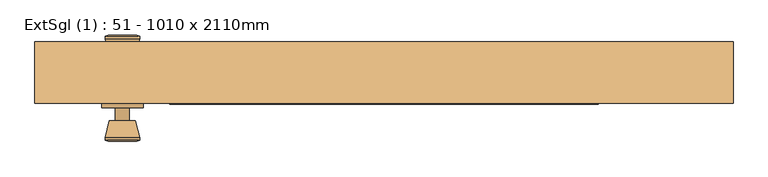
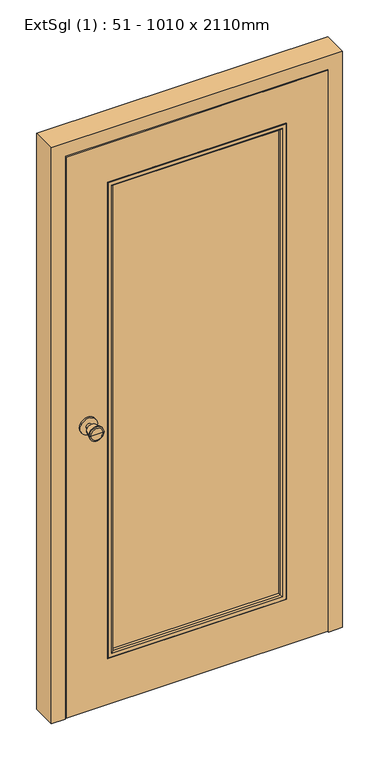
"""IFC4 building model written with IfcOpenShell, lengths in millimetres: door geometry, ExtSgl (1) : 51 - 1010 x 2110mm."""

import ifcopenshell
import ifcopenshell.guid

model = None  # the IFC model being written
_history = None  # IfcOwnerHistory: only IFC2X3 demands one
_inside = {}  # id of a spatial element -> (the spatial element, [elements in it])
_under = {}  # id of a project, library or spatial element -> (it, [spatial elements below it])
_declared = {}  # id of a project -> (the project, [libraries it declares])
_typed = {}  # id of a type object -> (the type object, [elements of that type])
_made_of = {}  # id of a material, layer set ... -> (it, [elements and type objects made of it])


def new_model(schema):
    """Start an empty IFC model of exactly this schema.

    Asked for "IFC4X3", IfcOpenShell would pick the latest addendum, in which some entities
    have other attributes; the version numbers below select the first issue.
    IFC2X3 requires an IfcOwnerHistory on every rooted entity: one is made here for all.
    """
    global model, _history
    if schema == "IFC4X3":
        model = ifcopenshell.file(schema_version=(4, 3, 0, 0))
    else:
        model = ifcopenshell.file(schema=schema)
    _inside.clear()
    _under.clear()
    _declared.clear()
    _typed.clear()
    _made_of.clear()
    _history = None
    if model.schema == "IFC2X3":
        org = make("IfcOrganization", Name="unknown")
        user = make(
            "IfcPersonAndOrganization",
            ThePerson=make("IfcPerson", FamilyName="unknown"),
            TheOrganization=org,
        )
        app = make(
            "IfcApplication",
            ApplicationDeveloper=org,
            Version="unknown",
            ApplicationFullName="unknown",
            ApplicationIdentifier="unknown",
        )
        _history = make(
            "IfcOwnerHistory",
            OwningUser=user,
            OwningApplication=app,
            ChangeAction="ADDED",
            CreationDate=0,
        )
    return model


def make(cls, **values):
    """One entity of the class cls with the attributes given. An attribute that is None is left unset."""
    return model.create_entity(
        cls, **{name: value for name, value in values.items() if value is not None}
    )


def rooted(cls, **values):
    """An entity with a GlobalId (a new one), such as an element, a storey or a relation."""
    return make(cls, GlobalId=ifcopenshell.guid.new(), OwnerHistory=_history, **values)


def si_unit(unit_type, name, prefix=None):
    """IfcSIUnit, for example si_unit("LENGTHUNIT", "METRE", prefix="MILLI")."""
    return make("IfcSIUnit", UnitType=unit_type, Prefix=prefix, Name=name)


def assignment(units):
    """IfcUnitAssignment: the units of a project."""
    return None if units is None else make("IfcUnitAssignment", Units=units)


def point(xyz):
    """IfcCartesianPoint."""
    return None if xyz is None else make("IfcCartesianPoint", Coordinates=xyz)


def direction(xyz):
    """IfcDirection."""
    return None if xyz is None else make("IfcDirection", DirectionRatios=xyz)


def frame(location, z_axis=None, x_axis=None):
    """IfcAxis2Placement3D, a coordinate frame: its origin and axes. An axis left out is left unset."""
    return make(
        "IfcAxis2Placement3D",
        Location=point(location),
        Axis=direction(z_axis),
        RefDirection=direction(x_axis),
    )


def frame_2d(location, x_axis=None):
    """IfcAxis2Placement2D, a coordinate frame in the plane: its origin and x axis."""
    return make(
        "IfcAxis2Placement2D", Location=point(location), RefDirection=direction(x_axis)
    )


def origin():
    """The frame at (0, 0, 0) with its axes left unset."""
    return frame((0.0, 0.0, 0.0))


def place(relative_to, where):
    """IfcLocalPlacement: puts the frame where relative to a parent placement (None: the world)."""
    return make(
        "IfcLocalPlacement", PlacementRelTo=relative_to, RelativePlacement=where
    )


def context(
    kind, dimensions, precision=None, world=None, true_north=None, identifier=None
):
    """IfcGeometricRepresentationContext, for example the 3D "Model" context."""
    return make(
        "IfcGeometricRepresentationContext",
        ContextIdentifier=identifier,
        ContextType=kind,
        CoordinateSpaceDimension=dimensions,
        Precision=precision,
        WorldCoordinateSystem=world,
        TrueNorth=true_north,
    )


def project(units=None, contexts=None):
    """IfcProject with its units and contexts."""
    return rooted(
        "IfcProject",
        Name="project",
        RepresentationContexts=contexts,
        UnitsInContext=assignment(units),
    )


def spatial(cls, under=None, at=None, **own):
    """A site, building, storey or space (cls), placed at a placement, below another one or the project."""
    s = rooted(cls, ObjectPlacement=at, **own)
    if under is not None:
        _under.setdefault(under.id(), (under, []))[1].append(s)
    return s


def polyline(points):
    """IfcPolyline through the points."""
    return make("IfcPolyline", Points=[point(p) for p in points])


def circle_curve(where, radius):
    """IfcCircle in the frame where."""
    return make("IfcCircle", Position=where, Radius=radius)


def ellipse_curve(where, semi_axis1, semi_axis2):
    """IfcEllipse in the frame where."""
    return make(
        "IfcEllipse", Position=where, SemiAxis1=semi_axis1, SemiAxis2=semi_axis2
    )


def trimmed(basis, trim1, trim2, sense, master):
    """IfcTrimmedCurve: the piece of a basis curve between two trims."""
    return make(
        "IfcTrimmedCurve",
        BasisCurve=basis,
        Trim1=trim1,
        Trim2=trim2,
        SenseAgreement=sense,
        MasterRepresentation=master,
    )


def segment(curve, same_sense, transition):
    """IfcCompositeCurveSegment."""
    return make(
        "IfcCompositeCurveSegment",
        Transition=transition,
        SameSense=same_sense,
        ParentCurve=curve,
    )


def composite_curve(segments, self_intersect=None):
    """IfcCompositeCurve: segments joined end to end."""
    return make("IfcCompositeCurve", Segments=segments, SelfIntersect=self_intersect)


def outline(outer, holes=None, kind="AREA"):
    """IfcArbitraryClosedProfileDef: a profile drawn as a closed curve; with holes, ...WithVoids."""
    if holes is None:
        return make("IfcArbitraryClosedProfileDef", ProfileType=kind, OuterCurve=outer)
    return make(
        "IfcArbitraryProfileDefWithVoids",
        ProfileType=kind,
        OuterCurve=outer,
        InnerCurves=holes,
    )


def extrude(swept, where, along, depth):
    """IfcExtrudedAreaSolid: the profile swept, set in the frame where, extruded along a direction by depth."""
    return make(
        "IfcExtrudedAreaSolid",
        SweptArea=swept,
        Position=where,
        ExtrudedDirection=direction(along),
        Depth=depth,
    )


def faces_of(points, faces, orient=None, outer=None):
    """IfcFace entities. A face is a list of loops; a loop is a list of indices into points, from 0.

    orient and outer hold one flag for each loop. By default every Orientation is true, the
    first loop of a face is its IfcFaceOuterBound and the others are IfcFaceBound.
    """
    made = []
    for i, loops in enumerate(faces):
        bounds = []
        for j, loop in enumerate(loops):
            is_outer = j == 0 if outer is None else outer[i][j]
            bounds.append(
                make(
                    "IfcFaceOuterBound" if is_outer else "IfcFaceBound",
                    Bound=make("IfcPolyLoop", Polygon=[points[k] for k in loop]),
                    Orientation=True if orient is None else orient[i][j],
                )
            )
        made.append(make("IfcFace", Bounds=bounds))
    return made


def faceted_brep(points, faces, orient=None, outer=None, voids=None):
    """IfcFacetedBrep: a solid bounded by flat faces; with voids (closed shells), ...WithVoids."""
    shared = [point(p) for p in points]
    hull = make("IfcClosedShell", CfsFaces=faces_of(shared, faces, orient, outer))
    if voids is None:
        return make("IfcFacetedBrep", Outer=hull)
    return make(
        "IfcFacetedBrepWithVoids",
        Outer=hull,
        Voids=[
            make(cls, CfsFaces=faces_of(shared, fs, o, b)) for cls, fs, o, b in voids
        ],
    )


def shape(context_of_items, identifier, shape_type, items):
    """IfcShapeRepresentation: the items that make up one representation, for example the "Body"."""
    return make(
        "IfcShapeRepresentation",
        ContextOfItems=context_of_items,
        RepresentationIdentifier=identifier,
        RepresentationType=shape_type,
        Items=items,
    )


def source(mapping_origin, context_of_items, identifier, shape_type, items):
    """IfcRepresentationMap: a shape defined once, which mapped items show again and again."""
    return make(
        "IfcRepresentationMap",
        MappingOrigin=mapping_origin,
        MappedRepresentation=shape(context_of_items, identifier, shape_type, items),
    )


def transform(
    local_origin,
    x_axis=None,
    y_axis=None,
    z_axis=None,
    scale=None,
    scale2=None,
    scale3=None,
    uniform=True,
):
    """IfcCartesianTransformationOperator3D, or its non-uniform kind. x_axis, y_axis, z_axis: its Axis1, 2, 3."""
    if uniform:
        return make(
            "IfcCartesianTransformationOperator3D",
            Axis1=direction(x_axis),
            Axis2=direction(y_axis),
            LocalOrigin=point(local_origin),
            Scale=scale,
            Axis3=direction(z_axis),
        )
    return make(
        "IfcCartesianTransformationOperator3DnonUniform",
        Axis1=direction(x_axis),
        Axis2=direction(y_axis),
        LocalOrigin=point(local_origin),
        Scale=scale,
        Axis3=direction(z_axis),
        Scale2=scale2,
        Scale3=scale3,
    )


def mapped(mapping_source, mapping_target):
    """IfcMappedItem: shows the shape of a source again, moved by a transform."""
    return make(
        "IfcMappedItem", MappingSource=mapping_source, MappingTarget=mapping_target
    )


def made_of(thing, what):
    """Note that an element or type object is made of a material, layer set ...; save() writes the relation."""
    if what is not None:
        _made_of.setdefault(what.id(), (what, []))[1].append(thing)
    return thing


def element(
    cls,
    number,
    at=None,
    inside=None,
    cuts=None,
    type_object=None,
    material=None,
    context=None,
    identifier="Body",
    shape_type=None,
    held_by="IfcProductDefinitionShape",
    body=None,
    shapes=None,
    **own,
):
    """One element of the class cls, such as IfcWall. Its Tag is "e" and its number.

    at: its placement. inside: the storey or other place that contains it. cuts: it is an
    opening in that element (IfcRelVoidsElement). A single representation is given by context,
    identifier, shape_type and body (its items); several are given by shapes. held_by: the class
    of the entity that holds the representations. save() writes the other relations.
    """
    e = rooted(cls, Tag="e%d" % number, ObjectPlacement=at, **own)
    if body is not None:
        shapes = [shape(context, identifier, shape_type, body)]
    if shapes is not None:
        e.Representation = make(held_by, Representations=shapes)
    if inside is not None:
        _inside.setdefault(inside.id(), (inside, []))[1].append(e)
    if cuts is not None:
        rooted(
            "IfcRelVoidsElement", RelatingBuildingElement=cuts, RelatedOpeningElement=e
        )
    if type_object is not None:
        _typed.setdefault(type_object.id(), (type_object, []))[1].append(e)
    return made_of(e, material)


def aggregate(whole, parts):
    """IfcRelAggregates: a whole, such as a stair, and the parts it consists of."""
    return rooted("IfcRelAggregates", RelatingObject=whole, RelatedObjects=parts)


def save(model, path):
    """Write the relations noted so far, then the file.

    IfcRelAggregates (storeys below a building ...), IfcRelContainedInSpatialStructure (elements
    in a storey), IfcRelDefinesByType, IfcRelAssociatesMaterial and IfcRelDeclares: one each for
    every whole, place, type object, material and project.
    """
    for whole, parts in _under.values():
        aggregate(whole, parts)
    for where, things in _inside.values():
        rooted(
            "IfcRelContainedInSpatialStructure",
            RelatedElements=things,
            RelatingStructure=where,
        )
    for kind, things in _typed.values():
        rooted("IfcRelDefinesByType", RelatedObjects=things, RelatingType=kind)
    for what, things in _made_of.values():
        rooted("IfcRelAssociatesMaterial", RelatedObjects=things, RelatingMaterial=what)
    for by, libraries in _declared.values():
        rooted("IfcRelDeclares", RelatingContext=by, RelatedDefinitions=libraries)
    model.write(path)


def plane_surface(at):
    """IfcPlane: the flat surface through the origin of the frame at, square to its z axis."""
    return make("IfcPlane", Position=at)


def cylinder_surface(at, radius):
    """IfcCylindricalSurface: all points at the distance radius from the z axis of the frame at."""
    return make("IfcCylindricalSurface", Position=at, Radius=radius)


def revolved_surface(curve, axis_point, axis_direction):
    """IfcSurfaceOfRevolution: the curve turned about the line through axis_point along axis_direction."""
    return make(
        "IfcSurfaceOfRevolution",
        SweptCurve=make("IfcArbitraryOpenProfileDef", ProfileType="CURVE", Curve=curve),
        AxisPosition=make("IfcAxis1Placement", Location=point(axis_point), Axis=direction(axis_direction)),
    )


def advanced_brep(points, edges, surfaces, faces):
    """IfcAdvancedBrep: a solid bounded by faces that lie on surfaces and meet in shared edges.

    An edge is (start, end): straight between two places in points (the first is 0);
    or (start, end, curve); or (start, end, curve, False) where it runs against its curve.
    A face is (place in surfaces, loops), or (place, loops, False) where it looks against
    its surface's normal. A loop lists edges by number (the first is 1), with a minus sign
    where the edge is run from its end to its start. The first loop is the outer one.
    """
    corners = [point(p) for p in points]
    vertices = [make("IfcVertexPoint", VertexGeometry=c) for c in corners]
    made = []
    for start, end, *more in edges:
        made.append(
            make(
                "IfcEdgeCurve",
                EdgeStart=vertices[start],
                EdgeEnd=vertices[end],
                EdgeGeometry=more[0] if more else make("IfcPolyline", Points=[corners[start], corners[end]]),
                SameSense=more[1] if len(more) > 1 else True,
            )
        )
    hull = []
    for where, loops, *sense in faces:
        bounds = []
        for j, loop in enumerate(loops):
            ring = [make("IfcOrientedEdge", EdgeElement=made[abs(k) - 1], Orientation=k > 0) for k in loop]
            bounds.append(
                make(
                    "IfcFaceOuterBound" if j == 0 else "IfcFaceBound",
                    Bound=make("IfcEdgeLoop", EdgeList=ring),
                    Orientation=True,
                )
            )
        hull.append(make("IfcAdvancedFace", Bounds=bounds, FaceSurface=surfaces[where], SameSense=sense[0] if sense else True))
    return make("IfcAdvancedBrep", Outer=make("IfcClosedShell", CfsFaces=hull))


def extsgl_1_51_1010_x_2110mm_960b48f2(model_context):
    return source(origin(), model_context, "Body", "SolidModel", [
        advanced_brep(
        [(-378.5, 25.0, 1050.0), (-368.5, 25.0, 1050.0), (-388.5, 25.0, 1050.0), (-358.0241324, -24.0, 1050.0), (-378.5, -24.0, 1050.0), (-398.9758676, -24.0, 1050.0), (-353.5, -22.1721319, 1050.0), (-403.5, -22.1721319, 1050.0), (-353.5, -18.7084537, 1050.0), (-403.5, -18.7084537, 1050.0), (-359.863764, 6.0, 1050.0), (-397.136236, 6.0, 1050.0), (-368.5, 6.0, 1050.0), (-388.5, 6.0, 1050.0)],
        [
            (0, 1),
            (1, 2, circle_curve(frame((-378.5, 25.0, 1050.0), z_axis=(0.0, 1.0, 0.0), x_axis=(-1.0, 0.0, 0.0)), 10.0)),
            (2, 0),
            (2, 1, circle_curve(frame((-378.5, 25.0, 1050.0), z_axis=(0.0, 1.0, 0.0), x_axis=(-1.0, 0.0, 0.0)), 10.0)),
            (3, 4),
            (4, 5),
            (5, 3, circle_curve(frame((-378.5, -24.0, 1050.0), z_axis=(0.0, -1.0, 0.0), x_axis=(-1.0, 0.0, 0.0)), 20.4758676)),
            (3, 5, circle_curve(frame((-378.5, -24.0, 1050.0), z_axis=(0.0, -1.0, 0.0), x_axis=(-1.0, 0.0, 0.0)), 20.4758676)),
            (6, 3),
            (5, 7),
            (7, 6, circle_curve(frame((-378.5, -22.1721319, 1050.0), z_axis=(0.0, -1.0, 0.0), x_axis=(-1.0, 0.0, 0.0)), 25.0)),
            (6, 7, circle_curve(frame((-378.5, -22.1721319, 1050.0), z_axis=(0.0, -1.0, 0.0), x_axis=(-1.0, 0.0, 0.0)), 25.0)),
            (8, 6),
            (7, 9),
            (9, 8, circle_curve(frame((-378.5, -18.7084537, 1050.0), z_axis=(0.0, -1.0, 0.0), x_axis=(-1.0, 0.0, 0.0)), 25.0)),
            (8, 9, circle_curve(frame((-378.5, -18.7084537, 1050.0), z_axis=(0.0, -1.0, 0.0), x_axis=(-1.0, 0.0, 0.0)), 25.0)),
            (10, 8),
            (9, 11),
            (11, 10, circle_curve(frame((-378.5, 6.0, 1050.0), z_axis=(0.0, -1.0, 0.0), x_axis=(-1.0, 0.0, 0.0)), 18.636236)),
            (10, 11, circle_curve(frame((-378.5, 6.0, 1050.0), z_axis=(0.0, -1.0, 0.0), x_axis=(-1.0, 0.0, 0.0)), 18.636236)),
            (12, 10),
            (11, 13),
            (13, 12, circle_curve(frame((-378.5, 6.0, 1050.0), z_axis=(0.0, -1.0, 0.0), x_axis=(-1.0, 0.0, 0.0)), 10.0)),
            (12, 13, circle_curve(frame((-378.5, 6.0, 1050.0), z_axis=(0.0, -1.0, 0.0), x_axis=(-1.0, 0.0, 0.0)), 10.0)),
            (1, 12),
            (13, 2),
        ],
        [
            plane_surface(frame((-378.5, 25.0, 1050.0), z_axis=(0.0, 1.0, 0.0), x_axis=(-1.0, 0.0, 0.0))),
            plane_surface(frame((-378.5, -24.0, 1050.0), z_axis=(0.0, -1.0, 0.0), x_axis=(-1.0, 0.0, 0.0))),
            revolved_surface(polyline([(-398.9758676, -24.0, 1050.0), (-403.5, -22.1721319, 1050.0)]), (-378.5, 25.0, 1050.0), (0.0, 1.0, 0.0)),
            cylinder_surface(frame((-378.5, 25.0, 1050.0), z_axis=(0.0, 1.0, 0.0), x_axis=(-1.0, 0.0, 0.0)), 25.0),
            revolved_surface(polyline([(-403.5, -18.7084537, 1050.0), (-397.136236, 6.0, 1050.0)]), (-378.5, 25.0, 1050.0), (0.0, 1.0, 0.0)),
            plane_surface(frame((-378.5, 6.0, 1050.0), z_axis=(0.0, 1.0, 0.0), x_axis=(-1.0, 0.0, 0.0))),
            cylinder_surface(frame((-378.5, 25.0, 1050.0), z_axis=(0.0, 1.0, 0.0), x_axis=(-1.0, 0.0, 0.0)), 10.0),
        ],
        [
            (0, [[1, 2, 3]]),
            (0, [[-3, 4, -1]]),
            (1, [[5, 6, 7]]),
            (1, [[-6, -5, 8]]),
            (2, [[9, -7, 10, 11]]),
            (2, [[-10, -8, -9, 12]]),
            (3, [[13, -11, 14, 15]]),
            (3, [[-14, -12, -13, 16]]),
            (4, [[17, -15, 18, 19]]),
            (4, [[-18, -16, -17, 20]]),
            (5, [[21, -19, 22, 23]]),
            (5, [[-22, -20, -21, 24]]),
            (6, [[25, -23, 26, -2]]),
            (6, [[-26, -24, -25, -4]]),
        ],
    ),
        extrude(outline(composite_curve([segment(trimmed(circle_curve(frame_2d((1050.0, -378.5)), 30.0), [point((1050.0, -408.5))], [point((1050.0, -348.5))], False, "CARTESIAN"), True, "CONTINUOUS"), segment(trimmed(circle_curve(frame_2d((1050.0, -378.5)), 30.0), [point((1050.0, -348.5))], [point((1050.0, -408.5))], False, "CARTESIAN"), True, "CONTINUOUS")], self_intersect=False)), frame((0.0, 25.0, 0.0), z_axis=(0.0, 1.0, 0.0), x_axis=(0.0, 0.0, 1.0)), (0.0, 0.0, 1.0), 6.0),
        advanced_brep(
        [(-378.5, 81.0, 1050.0), (-388.5, 81.0, 1050.0), (-368.5, 81.0, 1050.0), (-358.0241324, 130.0, 1050.0), (-398.9758676, 130.0, 1050.0), (-378.5, 130.0, 1050.0), (-353.5, 128.1721319, 1050.0), (-403.5, 128.1721319, 1050.0), (-353.5, 124.7084537, 1050.0), (-403.5, 124.7084537, 1050.0), (-359.863764, 100.0, 1050.0), (-397.136236, 100.0, 1050.0), (-368.5, 100.0, 1050.0), (-388.5, 100.0, 1050.0)],
        [
            (0, 1),
            (1, 2, circle_curve(frame((-378.5, 81.0, 1050.0), z_axis=(0.0, -1.0, 0.0), x_axis=(-1.0, 0.0, 0.0)), 10.0)),
            (2, 0),
            (2, 1, circle_curve(frame((-378.5, 81.0, 1050.0), z_axis=(0.0, -1.0, 0.0), x_axis=(-1.0, 0.0, 0.0)), 10.0)),
            (3, 4, circle_curve(frame((-378.5, 130.0, 1050.0), z_axis=(0.0, 1.0, 0.0), x_axis=(-1.0, 0.0, 0.0)), 20.4758676)),
            (4, 5),
            (5, 3),
            (4, 3, circle_curve(frame((-378.5, 130.0, 1050.0), z_axis=(0.0, 1.0, 0.0), x_axis=(-1.0, 0.0, 0.0)), 20.4758676)),
            (6, 7, circle_curve(frame((-378.5, 128.1721319, 1050.0), z_axis=(0.0, 1.0, 0.0), x_axis=(-1.0, 0.0, 0.0)), 25.0)),
            (7, 4),
            (3, 6),
            (7, 6, circle_curve(frame((-378.5, 128.1721319, 1050.0), z_axis=(0.0, 1.0, 0.0), x_axis=(-1.0, 0.0, 0.0)), 25.0)),
            (8, 9, circle_curve(frame((-378.5, 124.7084537, 1050.0), z_axis=(0.0, 1.0, 0.0), x_axis=(-1.0, 0.0, 0.0)), 25.0)),
            (9, 7),
            (6, 8),
            (9, 8, circle_curve(frame((-378.5, 124.7084537, 1050.0), z_axis=(0.0, 1.0, 0.0), x_axis=(-1.0, 0.0, 0.0)), 25.0)),
            (10, 11, circle_curve(frame((-378.5, 100.0, 1050.0), z_axis=(0.0, 1.0, 0.0), x_axis=(-1.0, 0.0, 0.0)), 18.636236)),
            (11, 9),
            (8, 10),
            (11, 10, circle_curve(frame((-378.5, 100.0, 1050.0), z_axis=(0.0, 1.0, 0.0), x_axis=(-1.0, 0.0, 0.0)), 18.636236)),
            (12, 13, circle_curve(frame((-378.5, 100.0, 1050.0), z_axis=(0.0, 1.0, 0.0), x_axis=(-1.0, 0.0, 0.0)), 10.0)),
            (13, 11),
            (10, 12),
            (13, 12, circle_curve(frame((-378.5, 100.0, 1050.0), z_axis=(0.0, 1.0, 0.0), x_axis=(-1.0, 0.0, 0.0)), 10.0)),
            (1, 13),
            (12, 2),
        ],
        [
            plane_surface(frame((-378.5, 81.0, 1050.0), z_axis=(0.0, -1.0, 0.0), x_axis=(-1.0, 0.0, 0.0))),
            plane_surface(frame((-378.5, 130.0, 1050.0), z_axis=(0.0, 1.0, 0.0), x_axis=(-1.0, 0.0, 0.0))),
            revolved_surface(polyline([(-398.9758676, 130.0, 1050.0), (-403.5, 128.1721319, 1050.0)]), (-378.5, 81.0, 1050.0), (0.0, -1.0, 0.0)),
            cylinder_surface(frame((-378.5, 81.0, 1050.0), z_axis=(0.0, -1.0, 0.0), x_axis=(-1.0, 0.0, 0.0)), 25.0),
            revolved_surface(polyline([(-403.5, 124.7084537, 1050.0), (-397.136236, 100.0, 1050.0)]), (-378.5, 81.0, 1050.0), (0.0, -1.0, 0.0)),
            plane_surface(frame((-378.5, 100.0, 1050.0), z_axis=(0.0, -1.0, 0.0), x_axis=(-1.0, 0.0, 0.0))),
            cylinder_surface(frame((-378.5, 81.0, 1050.0), z_axis=(0.0, -1.0, 0.0), x_axis=(-1.0, 0.0, 0.0)), 10.0),
        ],
        [
            (0, [[1, 2, 3]]),
            (0, [[-3, 4, -1]]),
            (1, [[5, 6, 7]]),
            (1, [[8, -7, -6]]),
            (2, [[9, 10, -5, 11]]),
            (2, [[12, -11, -8, -10]]),
            (3, [[13, 14, -9, 15]]),
            (3, [[16, -15, -12, -14]]),
            (4, [[17, 18, -13, 19]]),
            (4, [[20, -19, -16, -18]]),
            (5, [[21, 22, -17, 23]]),
            (5, [[24, -23, -20, -22]]),
            (6, [[-2, 25, -21, 26]]),
            (6, [[-4, -26, -24, -25]]),
        ],
    ),
        extrude(outline(composite_curve([segment(trimmed(circle_curve(frame_2d((1050.0, -378.5)), 30.0), [point((1050.0, -408.5))], [point((1050.0, -348.5))], False, "CARTESIAN"), True, "CONTINUOUS"), segment(trimmed(circle_curve(frame_2d((1050.0, -378.5)), 30.0), [point((1050.0, -348.5))], [point((1050.0, -408.5))], False, "CARTESIAN"), True, "CONTINUOUS")], self_intersect=False)), frame((0.0, 75.0, 0.0), z_axis=(0.0, 1.0, 0.0), x_axis=(0.0, 0.0, 1.0)), (0.0, 0.0, 1.0), 6.0),
        faceted_brep([(434.5, 120.0, 0.0), (505.0, 120.0, 0.0), (505.0, 31.0, 0.0), (456.5, 31.0, 0.0), (456.5, 78.0, 0.0), (434.5, 78.0, 0.0), (434.5, 120.0, 2039.5), (-434.5, 120.0, 2039.5), (-434.5, 120.0, 0.0), (-505.0, 120.0, 0.0), (-505.0, 120.0, 2110.0), (505.0, 120.0, 2110.0), (505.0, 31.0, 2110.0), (-505.0, 31.0, 2110.0), (-505.0, 31.0, 0.0), (-456.5, 31.0, 0.0), (-456.5, 31.0, 2061.5), (456.5, 31.0, 2061.5), (456.5, 78.0, 2061.5), (-456.5, 78.0, 2061.5), (-456.5, 78.0, 0.0), (-434.5, 78.0, 0.0), (-434.5, 78.0, 2039.5), (434.5, 78.0, 2039.5)], [[[0, 1, 2, 3, 4, 5]], [[1, 0, 6, 7, 8, 9, 10, 11]], [[2, 1, 11, 12]], [[3, 2, 12, 13, 14, 15, 16, 17]], [[4, 3, 17, 18]], [[5, 4, 18, 19, 20, 21, 22, 23]], [[0, 5, 23, 6]], [[7, 22, 21, 8]], [[8, 21, 20, 15, 14, 9]], [[13, 10, 9, 14]], [[19, 16, 15, 20]], [[12, 11, 10, 13]], [[18, 17, 16, 19]], [[6, 23, 22, 7]]]),
        extrude(outline(polyline([(-303.5, 70.0), (303.5, 70.0), (303.5, 46.0), (-303.5, 46.0), (-303.5, 70.0)])), frame((0.0, 0.0, 179.0), z_axis=(0.0, 0.0, 1.0), x_axis=(1.0, 0.0, 0.0)), (0.0, 0.0, 1.0), 1729.5),
        extrude(outline(polyline([(4.0, 453.5), (2058.5, 453.5), (2058.5, -454.4250294), (4.0, -454.4250294), (4.0, 453.5)]), holes=[polyline([(179.0, -303.5), (1908.5, -303.5), (1908.5, 303.5), (179.0, 303.5), (179.0, -303.5)])]), frame((0.0, 31.0, 0.0), z_axis=(0.0, 1.0, 0.0), x_axis=(0.0, 0.0, 1.0)), (0.0, 0.0, 1.0), 44.0),
        advanced_brep(
        [(311.5, 32.0, 171.0), (311.5, 36.0, 171.0), (311.5, 36.0, 1916.5), (311.5, 32.0, 1916.5), (309.5, 30.0, 173.0), (309.5, 30.0, 1914.5), (291.5, 35.0, 191.0), (296.5, 30.0, 186.0), (296.5, 30.0, 1901.5), (291.5, 35.0, 1896.5), (291.5, 46.0, 191.0), (291.5, 46.0, 1896.5), (303.5, 36.0, 179.0), (303.5, 46.0, 179.0), (303.5, 46.0, 1908.5), (303.5, 36.0, 1908.5), (-311.5, 36.0, 1916.5), (-311.5, 32.0, 1916.5), (-309.5, 30.0, 1914.5), (-296.5, 30.0, 1901.5), (-291.5, 35.0, 1896.5), (-291.5, 46.0, 1896.5), (-303.5, 46.0, 1908.5), (-303.5, 36.0, 1908.5), (-311.5, 36.0, 171.0), (-311.5, 32.0, 171.0), (-309.5, 30.0, 173.0), (-296.5, 30.0, 186.0), (-291.5, 35.0, 191.0), (-291.5, 46.0, 191.0), (-303.5, 46.0, 179.0), (-303.5, 36.0, 179.0)],
        [
            (0, 1),
            (1, 2),
            (2, 3),
            (3, 0),
            (4, 0, ellipse_curve(frame((309.5, 32.0, 173.0), z_axis=(0.7071067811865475, 0.0, 0.7071067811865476), x_axis=(0.7071067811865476, 0.0, -0.7071067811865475)), 2.8284271, 2.0)),
            (3, 5, ellipse_curve(frame((309.5, 32.0, 1914.5), z_axis=(0.7071067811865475, 0.0, -0.7071067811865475), x_axis=(-0.7071067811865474, 0.0, -0.7071067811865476)), 2.8284271, 2.0)),
            (5, 4),
            (6, 7, ellipse_curve(frame((296.5, 35.0, 186.0), z_axis=(0.7071067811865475, 0.0, 0.7071067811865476), x_axis=(0.7071067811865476, 0.0, -0.7071067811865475)), 7.0710678, 5.0)),
            (7, 8),
            (8, 9, ellipse_curve(frame((296.5, 35.0, 1901.5), z_axis=(0.7071067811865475, 0.0, -0.7071067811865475), x_axis=(-0.7071067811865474, 0.0, -0.7071067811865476)), 7.0710678, 5.0)),
            (9, 6),
            (10, 6),
            (9, 11),
            (11, 10),
            (12, 13),
            (13, 14),
            (14, 15),
            (15, 12),
            (2, 16),
            (16, 17),
            (17, 3),
            (17, 18, ellipse_curve(frame((-309.5, 32.0, 1914.5), z_axis=(0.7071067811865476, 0.0, 0.7071067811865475), x_axis=(0.7071067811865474, 0.0, -0.7071067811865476)), 2.8284271, 2.0)),
            (18, 5),
            (8, 19),
            (19, 20, ellipse_curve(frame((-296.5, 35.0, 1901.5), z_axis=(0.7071067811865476, 0.0, 0.7071067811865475), x_axis=(0.7071067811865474, 0.0, -0.7071067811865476)), 7.0710678, 5.0)),
            (20, 9),
            (20, 21),
            (21, 11),
            (14, 22),
            (22, 23),
            (23, 15),
            (16, 24),
            (24, 25),
            (25, 17),
            (25, 26, ellipse_curve(frame((-309.5, 32.0, 173.0), z_axis=(-0.7071067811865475, 0.0, 0.7071067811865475), x_axis=(0.7071067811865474, 0.0, 0.7071067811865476)), 2.8284271, 2.0)),
            (26, 18),
            (19, 27),
            (27, 28, ellipse_curve(frame((-296.5, 35.0, 186.0), z_axis=(-0.7071067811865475, 0.0, 0.7071067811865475), x_axis=(0.7071067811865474, 0.0, 0.7071067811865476)), 7.0710678, 5.0)),
            (28, 20),
            (28, 29),
            (29, 21),
            (22, 30),
            (30, 31),
            (31, 23),
            (24, 1),
            (0, 25),
            (4, 26),
            (7, 27),
            (6, 28),
            (10, 29),
            (13, 30),
            (12, 31),
        ],
        [
            plane_surface(frame((311.5, 36.0, 171.0), z_axis=(1.0, 0.0, 0.0), x_axis=(0.0, 0.0, 1.0))),
            cylinder_surface(frame((309.5, 32.0, 179.0), z_axis=(0.0, 0.0, -1.0), x_axis=(1.0, 0.0, 0.0)), 2.0),
            cylinder_surface(frame((296.5, 35.0, 179.0), z_axis=(0.0, 0.0, -1.0), x_axis=(1.0, 0.0, 0.0)), 5.0),
            plane_surface(frame((291.5, 35.0, 191.0), z_axis=(-1.0, 0.0, 0.0), x_axis=(0.0, 0.0, 1.0))),
            plane_surface(frame((303.5, 46.0, 179.0), z_axis=(1.0, 0.0, 0.0), x_axis=(0.0, 0.0, 1.0))),
            plane_surface(frame((311.5, 36.0, 1916.5), z_axis=(0.0, 0.0, 1.0), x_axis=(-1.0, 0.0, 0.0))),
            cylinder_surface(frame((303.5, 32.0, 1914.5), z_axis=(1.0, 0.0, 0.0), x_axis=(0.0, 0.0, 1.0)), 2.0),
            cylinder_surface(frame((303.5, 35.0, 1901.5), z_axis=(1.0, 0.0, 0.0), x_axis=(0.0, 0.0, 1.0)), 5.0),
            plane_surface(frame((291.5, 35.0, 1896.5), z_axis=(0.0, 0.0, -1.0), x_axis=(-1.0, 0.0, 0.0))),
            plane_surface(frame((303.5, 46.0, 1908.5), z_axis=(0.0, 0.0, 1.0), x_axis=(-1.0, 0.0, 0.0))),
            plane_surface(frame((-311.5, 36.0, 1916.5), z_axis=(-1.0, 0.0, 0.0), x_axis=(0.0, 0.0, -1.0))),
            cylinder_surface(frame((-309.5, 32.0, 1908.5), z_axis=(0.0, 0.0, 1.0), x_axis=(-1.0, 0.0, 0.0)), 2.0),
            cylinder_surface(frame((-296.5, 35.0, 1908.5), z_axis=(0.0, 0.0, 1.0), x_axis=(-1.0, 0.0, 0.0)), 5.0),
            plane_surface(frame((-291.5, 35.0, 1896.5), z_axis=(1.0, 0.0, 0.0), x_axis=(0.0, 0.0, -1.0))),
            plane_surface(frame((-303.5, 46.0, 1908.5), z_axis=(-1.0, 0.0, 0.0), x_axis=(0.0, 0.0, -1.0))),
            plane_surface(frame((-311.5, 36.0, 171.0), z_axis=(0.0, 0.0, -1.0), x_axis=(1.0, 0.0, 0.0))),
            cylinder_surface(frame((-303.5, 32.0, 173.0), z_axis=(-1.0, 0.0, 0.0), x_axis=(0.0, 0.0, -1.0)), 2.0),
            plane_surface(frame((-309.5, 30.0, 173.0), z_axis=(0.0, -1.0, 0.0), x_axis=(1.0, 0.0, 0.0))),
            cylinder_surface(frame((-303.5, 35.0, 186.0), z_axis=(-1.0, 0.0, 0.0), x_axis=(0.0, 0.0, -1.0)), 5.0),
            plane_surface(frame((-291.5, 35.0, 191.0), z_axis=(0.0, 0.0, 1.0), x_axis=(1.0, 0.0, 0.0))),
            plane_surface(frame((-291.5, 46.0, 191.0), z_axis=(0.0, 1.0, 0.0), x_axis=(1.0, 0.0, 0.0))),
            plane_surface(frame((-303.5, 46.0, 179.0), z_axis=(0.0, 0.0, -1.0), x_axis=(1.0, 0.0, 0.0))),
            plane_surface(frame((-303.5, 36.0, 179.0), z_axis=(0.0, 1.0, 0.0), x_axis=(1.0, 0.0, 0.0))),
        ],
        [
            (0, [[1, 2, 3, 4]]),
            (1, [[5, -4, 6, 7]]),
            (2, [[8, 9, 10, 11]]),
            (3, [[12, -11, 13, 14]]),
            (4, [[15, 16, 17, 18]]),
            (5, [[-3, 19, 20, 21]]),
            (6, [[-6, -21, 22, 23]]),
            (7, [[-10, 24, 25, 26]]),
            (8, [[-13, -26, 27, 28]]),
            (9, [[-17, 29, 30, 31]]),
            (10, [[-20, 32, 33, 34]]),
            (11, [[-22, -34, 35, 36]]),
            (12, [[-25, 37, 38, 39]]),
            (13, [[-27, -39, 40, 41]]),
            (14, [[-30, 42, 43, 44]]),
            (15, [[-33, 45, -1, 46]]),
            (16, [[-35, -46, -5, 47]]),
            (17, [[-23, -36, -47, -7], [48, -37, -24, -9]]),
            (18, [[-38, -48, -8, 49]]),
            (19, [[-40, -49, -12, 50]]),
            (20, [[51, -42, -29, -16], [-28, -41, -50, -14]]),
            (21, [[-43, -51, -15, 52]]),
            (22, [[-45, -32, -19, -2], [-31, -44, -52, -18]]),
        ],
    ),
        advanced_brep(
        [(-311.5, 84.0, 171.0), (-311.5, 80.0, 171.0), (-311.5, 80.0, 1916.5), (-311.5, 84.0, 1916.5), (-309.5, 86.0, 173.0), (-309.5, 86.0, 1914.5), (-291.5, 81.0, 191.0), (-296.5, 86.0, 186.0), (-296.5, 86.0, 1901.5), (-291.5, 81.0, 1896.5), (-291.5, 70.0, 191.0), (-291.5, 70.0, 1896.5), (-303.5, 80.0, 179.0), (-303.5, 70.0, 179.0), (-303.5, 70.0, 1908.5), (-303.5, 80.0, 1908.5), (311.5, 80.0, 1916.5), (311.5, 84.0, 1916.5), (309.5, 86.0, 1914.5), (296.5, 86.0, 1901.5), (291.5, 81.0, 1896.5), (291.5, 70.0, 1896.5), (303.5, 70.0, 1908.5), (303.5, 80.0, 1908.5), (311.5, 80.0, 171.0), (311.5, 84.0, 171.0), (309.5, 86.0, 173.0), (296.5, 86.0, 186.0), (291.5, 81.0, 191.0), (291.5, 70.0, 191.0), (303.5, 70.0, 179.0), (303.5, 80.0, 179.0)],
        [
            (0, 1),
            (1, 2),
            (2, 3),
            (3, 0),
            (4, 0, ellipse_curve(frame((-309.5, 84.0, 173.0), z_axis=(-0.7071067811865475, 0.0, 0.7071067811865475), x_axis=(-0.7071067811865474, 0.0, -0.7071067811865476)), 2.8284271, 2.0)),
            (3, 5, ellipse_curve(frame((-309.5, 84.0, 1914.5), z_axis=(-0.7071067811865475, 0.0, -0.7071067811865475), x_axis=(0.7071067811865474, 0.0, -0.7071067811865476)), 2.8284271, 2.0)),
            (5, 4),
            (6, 7, ellipse_curve(frame((-296.5, 81.0, 186.0), z_axis=(-0.7071067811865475, 0.0, 0.7071067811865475), x_axis=(-0.7071067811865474, 0.0, -0.7071067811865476)), 7.0710678, 5.0)),
            (7, 8),
            (8, 9, ellipse_curve(frame((-296.5, 81.0, 1901.5), z_axis=(-0.7071067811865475, 0.0, -0.7071067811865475), x_axis=(0.7071067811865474, 0.0, -0.7071067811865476)), 7.0710678, 5.0)),
            (9, 6),
            (10, 6),
            (9, 11),
            (11, 10),
            (12, 13),
            (13, 14),
            (14, 15),
            (15, 12),
            (2, 16),
            (16, 17),
            (17, 3),
            (17, 18, ellipse_curve(frame((309.5, 84.0, 1914.5), z_axis=(-0.7071067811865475, 0.0, 0.7071067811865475), x_axis=(-0.7071067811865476, 0.0, -0.7071067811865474)), 2.8284271, 2.0)),
            (18, 5),
            (8, 19),
            (19, 20, ellipse_curve(frame((296.5, 81.0, 1901.5), z_axis=(-0.7071067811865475, 0.0, 0.7071067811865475), x_axis=(-0.7071067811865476, 0.0, -0.7071067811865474)), 7.0710678, 5.0)),
            (20, 9),
            (20, 21),
            (21, 11),
            (14, 22),
            (22, 23),
            (23, 15),
            (16, 24),
            (24, 25),
            (25, 17),
            (25, 26, ellipse_curve(frame((309.5, 84.0, 173.0), z_axis=(0.7071067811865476, 0.0, 0.7071067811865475), x_axis=(-0.7071067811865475, 0.0, 0.7071067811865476)), 2.8284271, 2.0)),
            (26, 18),
            (19, 27),
            (27, 28, ellipse_curve(frame((296.5, 81.0, 186.0), z_axis=(0.7071067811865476, 0.0, 0.7071067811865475), x_axis=(-0.7071067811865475, 0.0, 0.7071067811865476)), 7.0710678, 5.0)),
            (28, 20),
            (28, 29),
            (29, 21),
            (22, 30),
            (30, 31),
            (31, 23),
            (24, 1),
            (0, 25),
            (4, 26),
            (7, 27),
            (6, 28),
            (10, 29),
            (13, 30),
            (12, 31),
        ],
        [
            plane_surface(frame((-311.5, 80.0, 171.0), z_axis=(-1.0, 0.0, 0.0), x_axis=(0.0, 0.0, 1.0))),
            cylinder_surface(frame((-309.5, 84.0, 179.0), z_axis=(0.0, 0.0, -1.0), x_axis=(-1.0, 0.0, 0.0)), 2.0),
            cylinder_surface(frame((-296.5, 81.0, 179.0), z_axis=(0.0, 0.0, -1.0), x_axis=(-1.0, 0.0, 0.0)), 5.0),
            plane_surface(frame((-291.5, 81.0, 191.0), z_axis=(1.0, 0.0, 0.0), x_axis=(0.0, 0.0, 1.0))),
            plane_surface(frame((-303.5, 70.0, 179.0), z_axis=(-1.0, 0.0, 0.0), x_axis=(0.0, 0.0, 1.0))),
            plane_surface(frame((-311.5, 80.0, 1916.5), z_axis=(0.0, 0.0, 1.0), x_axis=(1.0, 0.0, 0.0))),
            cylinder_surface(frame((-303.5, 84.0, 1914.5), z_axis=(-1.0, 0.0, 0.0), x_axis=(0.0, 0.0, 1.0)), 2.0),
            cylinder_surface(frame((-303.5, 81.0, 1901.5), z_axis=(-1.0, 0.0, 0.0), x_axis=(0.0, 0.0, 1.0)), 5.0),
            plane_surface(frame((-291.5, 81.0, 1896.5), z_axis=(0.0, 0.0, -1.0), x_axis=(1.0, 0.0, 0.0))),
            plane_surface(frame((-303.5, 70.0, 1908.5), z_axis=(0.0, 0.0, 1.0), x_axis=(1.0, 0.0, 0.0))),
            plane_surface(frame((311.5, 80.0, 1916.5), z_axis=(1.0, 0.0, 0.0), x_axis=(0.0, 0.0, -1.0))),
            cylinder_surface(frame((309.5, 84.0, 1908.5), z_axis=(0.0, 0.0, 1.0), x_axis=(1.0, 0.0, 0.0)), 2.0),
            cylinder_surface(frame((296.5, 81.0, 1908.5), z_axis=(0.0, 0.0, 1.0), x_axis=(1.0, 0.0, 0.0)), 5.0),
            plane_surface(frame((291.5, 81.0, 1896.5), z_axis=(-1.0, 0.0, 0.0), x_axis=(0.0, 0.0, -1.0))),
            plane_surface(frame((303.5, 70.0, 1908.5), z_axis=(1.0, 0.0, 0.0), x_axis=(0.0, 0.0, -1.0))),
            plane_surface(frame((311.5, 80.0, 171.0), z_axis=(0.0, 0.0, -1.0), x_axis=(-1.0, 0.0, 0.0))),
            cylinder_surface(frame((303.5, 84.0, 173.0), z_axis=(1.0, 0.0, 0.0), x_axis=(0.0, 0.0, -1.0)), 2.0),
            plane_surface(frame((309.5, 86.0, 173.0), z_axis=(0.0, 1.0, 0.0), x_axis=(-1.0, 0.0, 0.0))),
            cylinder_surface(frame((303.5, 81.0, 186.0), z_axis=(1.0, 0.0, 0.0), x_axis=(0.0, 0.0, -1.0)), 5.0),
            plane_surface(frame((291.5, 81.0, 191.0), z_axis=(0.0, 0.0, 1.0), x_axis=(-1.0, 0.0, 0.0))),
            plane_surface(frame((291.5, 70.0, 191.0), z_axis=(0.0, -1.0, 0.0), x_axis=(-1.0, 0.0, 0.0))),
            plane_surface(frame((303.5, 70.0, 179.0), z_axis=(0.0, 0.0, -1.0), x_axis=(-1.0, 0.0, 0.0))),
            plane_surface(frame((303.5, 80.0, 179.0), z_axis=(0.0, -1.0, 0.0), x_axis=(-1.0, 0.0, 0.0))),
        ],
        [
            (0, [[1, 2, 3, 4]]),
            (1, [[5, -4, 6, 7]]),
            (2, [[8, 9, 10, 11]]),
            (3, [[12, -11, 13, 14]]),
            (4, [[15, 16, 17, 18]]),
            (5, [[-3, 19, 20, 21]]),
            (6, [[-6, -21, 22, 23]]),
            (7, [[-10, 24, 25, 26]]),
            (8, [[-13, -26, 27, 28]]),
            (9, [[-17, 29, 30, 31]]),
            (10, [[-20, 32, 33, 34]]),
            (11, [[-22, -34, 35, 36]]),
            (12, [[-25, 37, 38, 39]]),
            (13, [[-27, -39, 40, 41]]),
            (14, [[-30, 42, 43, 44]]),
            (15, [[-33, 45, -1, 46]]),
            (16, [[-35, -46, -5, 47]]),
            (17, [[-23, -36, -47, -7], [48, -37, -24, -9]]),
            (18, [[-38, -48, -8, 49]]),
            (19, [[-40, -49, -12, 50]]),
            (20, [[51, -42, -29, -16], [-28, -41, -50, -14]]),
            (21, [[-43, -51, -15, 52]]),
            (22, [[-45, -32, -19, -2], [-31, -44, -52, -18]]),
        ],
    ),
    ])


if __name__ == "__main__":
    model = new_model("IFC4")
    model_context = context("Model", 3, world=origin())
    ifc_project = project(units=[si_unit("LENGTHUNIT", "METRE", prefix="MILLI")], contexts=[model_context])
    site = spatial("IfcSite", under=ifc_project)
    building = spatial("IfcBuilding", under=site)
    placement = place(None, origin())
    extsgl_1_51_1010_x_2110mm_shape = extsgl_1_51_1010_x_2110mm_960b48f2(model_context)
    element("IfcDoor", 1, ObjectType="ExtSgl (1) : 51 - 1010 x 2110mm", at=placement, inside=building, context=model_context, shape_type="MappedRepresentation", body=[
        mapped(extsgl_1_51_1010_x_2110mm_shape, transform((0.0, 0.0, 0.0), x_axis=(1.0, 0.0, 0.0), y_axis=(0.0, 1.0, 0.0), z_axis=(0.0, 0.0, 1.0))),
    ])
    save(model, "model.ifc")
